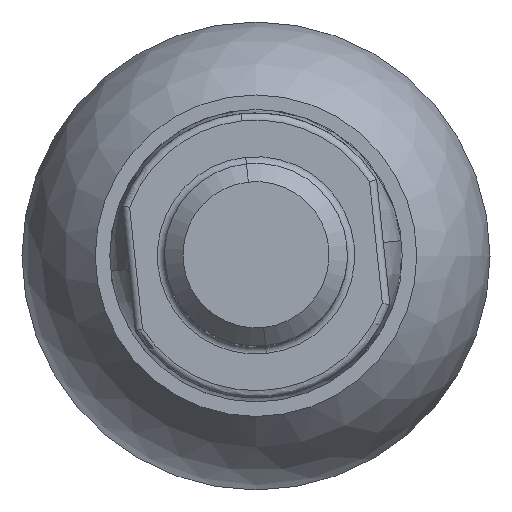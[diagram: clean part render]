
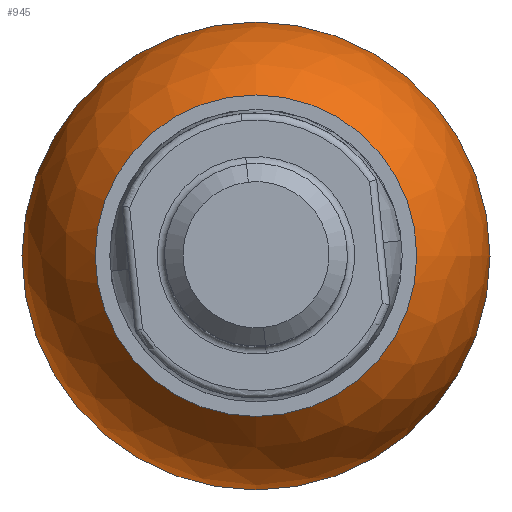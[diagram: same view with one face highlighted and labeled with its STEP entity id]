
A CAD part, top view. The second image highlights one B-rep face of the part: STEP entity #945.
In plain terms, the highlighted spherical face has radius 6.4 mm.
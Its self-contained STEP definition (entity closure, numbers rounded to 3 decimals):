
#47 = DIRECTION ( 'NONE',  ( 1., 0., 0. ) ) ;
#177 = CARTESIAN_POINT ( 'NONE',  ( 0., 0., 0. ) ) ;
#191 = VERTEX_POINT ( 'NONE', #1598 ) ;
#219 = EDGE_LOOP ( 'NONE', ( #536, #958 ) ) ;
#255 = CIRCLE ( 'NONE', #808, 6.4 ) ;
#354 = DIRECTION ( 'NONE',  ( 0., 0., 1. ) ) ;
#482 = CARTESIAN_POINT ( 'NONE',  ( 0., 0., 4.65 ) ) ;
#512 = CIRCLE ( 'NONE', #706, 4.397 ) ;
#536 = ORIENTED_EDGE ( 'NONE', *, *, #1813, .F. ) ;
#633 = ORIENTED_EDGE ( 'NONE', *, *, #782, .T. ) ;
#636 = CARTESIAN_POINT ( 'NONE',  ( 0., 0., 4.65 ) ) ;
#667 = SPHERICAL_SURFACE ( 'NONE', #1366, 6.4 ) ;
#706 = AXIS2_PLACEMENT_3D ( 'NONE', #482, #1833, #801 ) ;
#712 = ORIENTED_EDGE ( 'NONE', *, *, #742, .T. ) ;
#729 = EDGE_LOOP ( 'NONE', ( #712, #633 ) ) ;
#742 = EDGE_CURVE ( 'NONE', #1812, #191, #512, .T. ) ;
#772 = VERTEX_POINT ( 'NONE', #1230 ) ;
#782 = EDGE_CURVE ( 'NONE', #191, #1812, #1085, .T. ) ;
#801 = DIRECTION ( 'NONE',  ( -1., 0., 0. ) ) ;
#808 = AXIS2_PLACEMENT_3D ( 'NONE', #177, #1259, #1292 ) ;
#837 = AXIS2_PLACEMENT_3D ( 'NONE', #1458, #1171, #992 ) ;
#945 = ADVANCED_FACE ( 'NONE', ( #1566, #1296 ), #667, .T. ) ;
#958 = ORIENTED_EDGE ( 'NONE', *, *, #1980, .T. ) ;
#972 = CARTESIAN_POINT ( 'NONE',  ( -4.397, 0., 4.65 ) ) ;
#992 = DIRECTION ( 'NONE',  ( 1., 0., 0. ) ) ;
#1025 = CARTESIAN_POINT ( 'NONE',  ( 0., -6.4, 0. ) ) ;
#1085 = CIRCLE ( 'NONE', #1805, 4.397 ) ;
#1171 = DIRECTION ( 'NONE',  ( 0., 0., 1. ) ) ;
#1230 = CARTESIAN_POINT ( 'NONE',  ( 0., 6.4, 0. ) ) ;
#1259 = DIRECTION ( 'NONE',  ( 0., 0., -1. ) ) ;
#1292 = DIRECTION ( 'NONE',  ( -1., 0., 0. ) ) ;
#1296 = FACE_OUTER_BOUND ( 'NONE', #219, .T. ) ;
#1366 = AXIS2_PLACEMENT_3D ( 'NONE', #1867, #354, #47 ) ;
#1458 = CARTESIAN_POINT ( 'NONE',  ( 0., 0., 0. ) ) ;
#1471 = DIRECTION ( 'NONE',  ( 0., 0., -1. ) ) ;
#1545 = VERTEX_POINT ( 'NONE', #1025 ) ;
#1566 = FACE_BOUND ( 'NONE', #729, .T. ) ;
#1598 = CARTESIAN_POINT ( 'NONE',  ( 4.397, 0., 4.65 ) ) ;
#1672 = DIRECTION ( 'NONE',  ( -1., 0., 0. ) ) ;
#1744 = CIRCLE ( 'NONE', #837, 6.4 ) ;
#1805 = AXIS2_PLACEMENT_3D ( 'NONE', #636, #1471, #1672 ) ;
#1812 = VERTEX_POINT ( 'NONE', #972 ) ;
#1813 = EDGE_CURVE ( 'NONE', #772, #1545, #255, .T. ) ;
#1833 = DIRECTION ( 'NONE',  ( 0., 0., -1. ) ) ;
#1867 = CARTESIAN_POINT ( 'NONE',  ( 0., 0., 0. ) ) ;
#1980 = EDGE_CURVE ( 'NONE', #772, #1545, #1744, .T. ) ;
